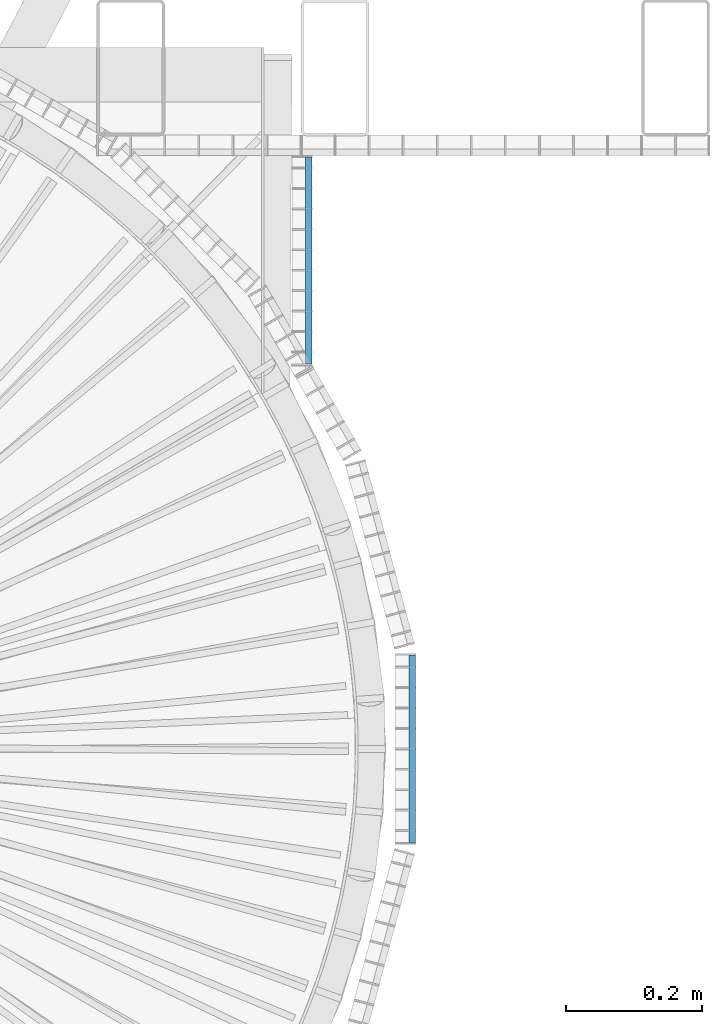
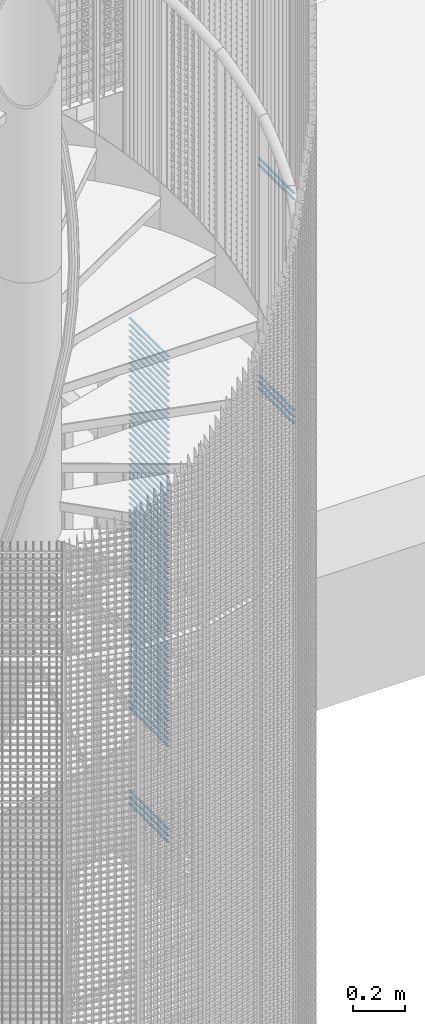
# One storey, part 291 of 1183: 70 beams, 2 elements without a shape of their own.
"""IFC2X3 building model written with IfcOpenShell, lengths in millimetres."""

import ifcopenshell
import ifcopenshell.guid

model = None  # the IFC model being written
_history = None  # IfcOwnerHistory: only IFC2X3 demands one
_inside = {}  # id of a spatial element -> (the spatial element, [elements in it])
_under = {}  # id of a project, library or spatial element -> (it, [spatial elements below it])
_declared = {}  # id of a project -> (the project, [libraries it declares])
_typed = {}  # id of a type object -> (the type object, [elements of that type])
_made_of = {}  # id of a material, layer set ... -> (it, [elements and type objects made of it])


def new_model(schema):
    """Start an empty IFC model of exactly this schema.

    Asked for "IFC4X3", IfcOpenShell would pick the latest addendum, in which some entities
    have other attributes; the version numbers below select the first issue.
    IFC2X3 requires an IfcOwnerHistory on every rooted entity: one is made here for all.
    """
    global model, _history
    if schema == "IFC4X3":
        model = ifcopenshell.file(schema_version=(4, 3, 0, 0))
    else:
        model = ifcopenshell.file(schema=schema)
    _inside.clear()
    _under.clear()
    _declared.clear()
    _typed.clear()
    _made_of.clear()
    _history = None
    if model.schema == "IFC2X3":
        org = make("IfcOrganization", Name="unknown")
        user = make(
            "IfcPersonAndOrganization",
            ThePerson=make("IfcPerson", FamilyName="unknown"),
            TheOrganization=org,
        )
        app = make(
            "IfcApplication",
            ApplicationDeveloper=org,
            Version="unknown",
            ApplicationFullName="unknown",
            ApplicationIdentifier="unknown",
        )
        _history = make(
            "IfcOwnerHistory",
            OwningUser=user,
            OwningApplication=app,
            ChangeAction="ADDED",
            CreationDate=0,
        )
    return model


def make(cls, **values):
    """One entity of the class cls with the attributes given. An attribute that is None is left unset."""
    return model.create_entity(
        cls, **{name: value for name, value in values.items() if value is not None}
    )


def rooted(cls, **values):
    """An entity with a GlobalId (a new one), such as an element, a storey or a relation."""
    return make(cls, GlobalId=ifcopenshell.guid.new(), OwnerHistory=_history, **values)


def si_unit(unit_type, name, prefix=None):
    """IfcSIUnit, for example si_unit("LENGTHUNIT", "METRE", prefix="MILLI")."""
    return make("IfcSIUnit", UnitType=unit_type, Prefix=prefix, Name=name)


def assignment(units):
    """IfcUnitAssignment: the units of a project."""
    return None if units is None else make("IfcUnitAssignment", Units=units)


def point(xyz):
    """IfcCartesianPoint."""
    return None if xyz is None else make("IfcCartesianPoint", Coordinates=xyz)


def direction(xyz):
    """IfcDirection."""
    return None if xyz is None else make("IfcDirection", DirectionRatios=xyz)


def frame(location, z_axis=None, x_axis=None):
    """IfcAxis2Placement3D, a coordinate frame: its origin and axes. An axis left out is left unset."""
    return make(
        "IfcAxis2Placement3D",
        Location=point(location),
        Axis=direction(z_axis),
        RefDirection=direction(x_axis),
    )


def frame_2d(location, x_axis=None):
    """IfcAxis2Placement2D, a coordinate frame in the plane: its origin and x axis."""
    return make(
        "IfcAxis2Placement2D", Location=point(location), RefDirection=direction(x_axis)
    )


def origin_with_axes():
    """The frame at (0, 0, 0) with the z axis (0, 0, 1) and the x axis (1, 0, 0) written out."""
    return frame((0.0, 0.0, 0.0), z_axis=(0.0, 0.0, 1.0), x_axis=(1.0, 0.0, 0.0))


def origin_2d_with_axis():
    """The frame at (0, 0) in the plane with the x axis (1, 0) written out."""
    return frame_2d((0.0, 0.0), x_axis=(1.0, 0.0))


def place(relative_to, where):
    """IfcLocalPlacement: puts the frame where relative to a parent placement (None: the world)."""
    return make(
        "IfcLocalPlacement", PlacementRelTo=relative_to, RelativePlacement=where
    )


def context(
    kind, dimensions, precision=None, world=None, true_north=None, identifier=None
):
    """IfcGeometricRepresentationContext, for example the 3D "Model" context."""
    return make(
        "IfcGeometricRepresentationContext",
        ContextIdentifier=identifier,
        ContextType=kind,
        CoordinateSpaceDimension=dimensions,
        Precision=precision,
        WorldCoordinateSystem=world,
        TrueNorth=true_north,
    )


def subcontext(parent, identifier, kind, view, scale=None):
    """IfcGeometricRepresentationSubContext, for example "Body" below "Model"."""
    return make(
        "IfcGeometricRepresentationSubContext",
        ContextIdentifier=identifier,
        ContextType=kind,
        ParentContext=parent,
        TargetScale=scale,
        TargetView=view,
    )


def project(units=None, contexts=None):
    """IfcProject with its units and contexts."""
    return rooted(
        "IfcProject",
        Name="project",
        RepresentationContexts=contexts,
        UnitsInContext=assignment(units),
    )


def spatial(cls, under=None, at=None, **own):
    """A site, building, storey or space (cls), placed at a placement, below another one or the project."""
    s = rooted(cls, ObjectPlacement=at, **own)
    if under is not None:
        _under.setdefault(under.id(), (under, []))[1].append(s)
    return s


def profile(cls, at=None, kind="AREA", **sizes):
    """A parametric profile (cls). Its sizes go by their IFC names, for example OverallWidth=200.0."""
    return make(cls, ProfileType=kind, Position=at, **sizes)


def rectangle(**sizes):
    """IfcRectangleProfileDef."""
    return profile("IfcRectangleProfileDef", **sizes)


def extrude(swept, where, along, depth):
    """IfcExtrudedAreaSolid: the profile swept, set in the frame where, extruded along a direction by depth."""
    return make(
        "IfcExtrudedAreaSolid",
        SweptArea=swept,
        Position=where,
        ExtrudedDirection=direction(along),
        Depth=depth,
    )


def shape(context_of_items, identifier, shape_type, items):
    """IfcShapeRepresentation: the items that make up one representation, for example the "Body"."""
    return make(
        "IfcShapeRepresentation",
        ContextOfItems=context_of_items,
        RepresentationIdentifier=identifier,
        RepresentationType=shape_type,
        Items=items,
    )


def material(Name=None, Category=None):
    """IfcMaterial."""
    return make("IfcMaterial", Name=Name, Category=Category)


def made_of(thing, what):
    """Note that an element or type object is made of a material, layer set ...; save() writes the relation."""
    if what is not None:
        _made_of.setdefault(what.id(), (what, []))[1].append(thing)
    return thing


def type_object(cls, material=None, **own):
    """A type object (cls), such as IfcWallType, which elements share."""
    return made_of(rooted(cls, **own), material)


def element(
    cls,
    number,
    at=None,
    inside=None,
    cuts=None,
    type_object=None,
    material=None,
    context=None,
    identifier="Body",
    shape_type=None,
    held_by="IfcProductDefinitionShape",
    body=None,
    shapes=None,
    **own,
):
    """One element of the class cls, such as IfcWall. Its Tag is "e" and its number.

    at: its placement. inside: the storey or other place that contains it. cuts: it is an
    opening in that element (IfcRelVoidsElement). A single representation is given by context,
    identifier, shape_type and body (its items); several are given by shapes. held_by: the class
    of the entity that holds the representations. save() writes the other relations.
    """
    e = rooted(cls, Tag="e%d" % number, ObjectPlacement=at, **own)
    if body is not None:
        shapes = [shape(context, identifier, shape_type, body)]
    if shapes is not None:
        e.Representation = make(held_by, Representations=shapes)
    if inside is not None:
        _inside.setdefault(inside.id(), (inside, []))[1].append(e)
    if cuts is not None:
        rooted(
            "IfcRelVoidsElement", RelatingBuildingElement=cuts, RelatedOpeningElement=e
        )
    if type_object is not None:
        _typed.setdefault(type_object.id(), (type_object, []))[1].append(e)
    return made_of(e, material)


def aggregate(whole, parts):
    """IfcRelAggregates: a whole, such as a stair, and the parts it consists of."""
    return rooted("IfcRelAggregates", RelatingObject=whole, RelatedObjects=parts)


def save(model, path):
    """Write the relations noted so far, then the file.

    IfcRelAggregates (storeys below a building ...), IfcRelContainedInSpatialStructure (elements
    in a storey), IfcRelDefinesByType, IfcRelAssociatesMaterial and IfcRelDeclares: one each for
    every whole, place, type object, material and project.
    """
    for whole, parts in _under.values():
        aggregate(whole, parts)
    for where, things in _inside.values():
        rooted(
            "IfcRelContainedInSpatialStructure",
            RelatedElements=things,
            RelatingStructure=where,
        )
    for kind, things in _typed.values():
        rooted("IfcRelDefinesByType", RelatedObjects=things, RelatingType=kind)
    for what, things in _made_of.values():
        rooted("IfcRelAssociatesMaterial", RelatedObjects=things, RelatingMaterial=what)
    for by, libraries in _declared.values():
        rooted("IfcRelDeclares", RelatingContext=by, RelatedDefinitions=libraries)
    model.write(path)


model = new_model("IFC2X3")

# Units and contexts
model_context = context("Model", 3, precision=1e-05, world=origin_with_axes())
body_context = subcontext(model_context, "Body", "Model", "MODEL_VIEW")
ifc_project = project(units=[si_unit("LENGTHUNIT", "METRE", prefix="MILLI"), si_unit("AREAUNIT", "SQUARE_METRE"), si_unit("VOLUMEUNIT", "CUBIC_METRE"), si_unit("MASSUNIT", "GRAM", prefix="KILO"), si_unit("TIMEUNIT", "SECOND"), si_unit("PLANEANGLEUNIT", "RADIAN"), si_unit("SOLIDANGLEUNIT", "STERADIAN"), si_unit("THERMODYNAMICTEMPERATUREUNIT", "DEGREE_CELSIUS"), si_unit("LUMINOUSINTENSITYUNIT", "LUMEN")], contexts=[model_context])

# Site, building, storey
site_placement = place(None, origin_with_axes())
site = spatial("IfcSite", under=ifc_project, at=site_placement, Name="Undefined", CompositionType="ELEMENT")
building_placement = place(site_placement, origin_with_axes())
building = spatial("IfcBuilding", under=site, at=building_placement, Name="Undefined", CompositionType="ELEMENT")
storey_placement = place(building_placement, origin_with_axes())
storey = spatial("IfcBuildingStorey", under=building, at=storey_placement, Name="Undefined", CompositionType="ELEMENT", Elevation=0.0)

# Assembly, beams
assembly_1_placement = place(storey_placement, origin_with_axes())
assembly_1 = element("IfcElementAssembly", 1, at=assembly_1_placement, inside=storey, Name="BORDURE", AssemblyPlace="NOTDEFINED", PredefinedType="NOTDEFINED")
ifc_material = material(Name="STEEL/S235JR")
beam_type = type_object("IfcBeamType", Name="PL2*10", PredefinedType="NOTDEFINED")
beam_1_placement = place(assembly_1_placement, frame((1113.47999999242, -137.996003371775, 10080.0), z_axis=(1.0, 0.0, 0.0), x_axis=(0.0, 1.0, 0.0)))
beam_1 = element("IfcBeam", 2, at=beam_1_placement, type_object=beam_type, material=ifc_material, Name="ENTRETOISE", context=body_context, shape_type="SweptSolid", body=[
    extrude(rectangle(XDim=2.0, YDim=10.0, at=origin_2d_with_axis()), frame((275.999999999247, 9.09494701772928e-13, 1.53210777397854e-14), z_axis=(-1.0, 0.0, 0.0), x_axis=(0.0, -1.0, 0.0)), (0.0, 0.0, 1.0), 276.0),
])
beam_2_placement = place(assembly_1_placement, frame((1113.47999999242, -137.996003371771, 9090.0), z_axis=(1.0, 0.0, 0.0), x_axis=(0.0, 1.0, 0.0)))
beam_2 = element("IfcBeam", 3, at=beam_2_placement, type_object=beam_type, material=ifc_material, Name="ENTRETOISE", context=body_context, shape_type="SweptSolid", body=[
    extrude(rectangle(XDim=2.0, YDim=10.0, at=origin_2d_with_axis()), frame((275.999999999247, 9.09494701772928e-13, 1.53210777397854e-14), z_axis=(-1.0, 0.0, 0.0), x_axis=(0.0, -1.0, 0.0)), (0.0, 0.0, 1.0), 276.0),
])
beam_3_placement = place(assembly_1_placement, frame((1113.47999999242, -137.996003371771, 9060.0), z_axis=(1.0, 0.0, 0.0), x_axis=(0.0, 1.0, 0.0)))
beam_3 = element("IfcBeam", 4, at=beam_3_placement, type_object=beam_type, material=ifc_material, Name="ENTRETOISE", context=body_context, shape_type="SweptSolid", body=[
    extrude(rectangle(XDim=2.0, YDim=10.0, at=origin_2d_with_axis()), frame((275.999999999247, 9.09494701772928e-13, 1.53210777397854e-14), z_axis=(-1.0, 0.0, 0.0), x_axis=(0.0, -1.0, 0.0)), (0.0, 0.0, 1.0), 276.0),
])
beam_4_placement = place(assembly_1_placement, frame((1113.47999999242, -137.996003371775, 10110.0), z_axis=(1.0, 0.0, 0.0), x_axis=(0.0, 1.0, 0.0)))
beam_4 = element("IfcBeam", 5, at=beam_4_placement, type_object=beam_type, material=ifc_material, Name="ENTRETOISE", context=body_context, shape_type="SweptSolid", body=[
    extrude(rectangle(XDim=2.0, YDim=10.0, at=origin_2d_with_axis()), frame((275.999999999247, 9.09494701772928e-13, 1.53210777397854e-14), z_axis=(-1.0, 0.0, 0.0), x_axis=(0.0, -1.0, 0.0)), (0.0, 0.0, 1.0), 276.0),
])
beam_5_placement = place(assembly_1_placement, frame((1113.47999999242, -137.99600337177, 9030.0), z_axis=(1.0, 0.0, 0.0), x_axis=(0.0, 1.0, 0.0)))
beam_5 = element("IfcBeam", 6, at=beam_5_placement, type_object=beam_type, material=ifc_material, Name="ENTRETOISE", context=body_context, shape_type="SweptSolid", body=[
    extrude(rectangle(XDim=2.0, YDim=10.0, at=origin_2d_with_axis()), frame((275.999999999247, 9.09494701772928e-13, 1.53210777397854e-14), z_axis=(-1.0, 0.0, 0.0), x_axis=(0.0, -1.0, 0.0)), (0.0, 0.0, 1.0), 276.0),
])
aggregate(assembly_1, [beam_1, beam_2, beam_3, beam_4, beam_5])

assembly_2_placement = place(storey_placement, origin_with_axes())
assembly_2 = element("IfcElementAssembly", 7, at=assembly_2_placement, inside=storey, Name="BORDURE", AssemblyPlace="NOTDEFINED", PredefinedType="NOTDEFINED")
beam_6_placement = place(assembly_2_placement, frame((961.586915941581, 564.78266928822, 8970.0), z_axis=(1.0, 0.0, 0.0), x_axis=(0.0, 1.0, 0.0)))
beam_6 = element("IfcBeam", 8, at=beam_6_placement, type_object=beam_type, material=ifc_material, Name="ENTRETOISE", context=body_context, shape_type="SweptSolid", body=[
    extrude(rectangle(XDim=2.0, YDim=10.0, at=origin_2d_with_axis()), frame((303.999999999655, 0.0, 0.0), z_axis=(-1.0, 0.0, 0.0), x_axis=(0.0, -1.0, 0.0)), (0.0, 0.0, 1.0), 304.0),
])
beam_7_placement = place(assembly_2_placement, frame((961.586915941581, 564.78266928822, 8940.0), z_axis=(1.0, 0.0, 0.0), x_axis=(0.0, 1.0, 0.0)))
beam_7 = element("IfcBeam", 9, at=beam_7_placement, type_object=beam_type, material=ifc_material, Name="ENTRETOISE", context=body_context, shape_type="SweptSolid", body=[
    extrude(rectangle(XDim=2.0, YDim=10.0, at=origin_2d_with_axis()), frame((303.999999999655, 0.0, 0.0), z_axis=(-1.0, 0.0, 0.0), x_axis=(0.0, -1.0, 0.0)), (0.0, 0.0, 1.0), 304.0),
])
beam_8_placement = place(assembly_2_placement, frame((961.586915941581, 564.78266928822, 8910.0), z_axis=(1.0, 0.0, 0.0), x_axis=(0.0, 1.0, 0.0)))
beam_8 = element("IfcBeam", 10, at=beam_8_placement, type_object=beam_type, material=ifc_material, Name="ENTRETOISE", context=body_context, shape_type="SweptSolid", body=[
    extrude(rectangle(XDim=2.0, YDim=10.0, at=origin_2d_with_axis()), frame((303.999999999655, 0.0, 0.0), z_axis=(-1.0, 0.0, 0.0), x_axis=(0.0, -1.0, 0.0)), (0.0, 0.0, 1.0), 304.0),
])
beam_9_placement = place(assembly_2_placement, frame((961.586915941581, 564.782669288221, 8880.0), z_axis=(1.0, 0.0, 0.0), x_axis=(0.0, 1.0, 0.0)))
beam_9 = element("IfcBeam", 11, at=beam_9_placement, type_object=beam_type, material=ifc_material, Name="ENTRETOISE", context=body_context, shape_type="SweptSolid", body=[
    extrude(rectangle(XDim=2.0, YDim=10.0, at=origin_2d_with_axis()), frame((303.999999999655, 0.0, 0.0), z_axis=(-1.0, 0.0, 0.0), x_axis=(0.0, -1.0, 0.0)), (0.0, 0.0, 1.0), 304.0),
])
beam_10_placement = place(assembly_2_placement, frame((961.586915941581, 564.78266928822, 8850.0), z_axis=(1.0, 0.0, 0.0), x_axis=(0.0, 1.0, 0.0)))
beam_10 = element("IfcBeam", 12, at=beam_10_placement, type_object=beam_type, material=ifc_material, Name="ENTRETOISE", context=body_context, shape_type="SweptSolid", body=[
    extrude(rectangle(XDim=2.0, YDim=10.0, at=origin_2d_with_axis()), frame((303.999999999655, 0.0, 0.0), z_axis=(-1.0, 0.0, 0.0), x_axis=(0.0, -1.0, 0.0)), (0.0, 0.0, 1.0), 304.0),
])
beam_11_placement = place(assembly_2_placement, frame((961.586915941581, 564.78266928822, 8820.0), z_axis=(1.0, 0.0, 0.0), x_axis=(0.0, 1.0, 0.0)))
beam_11 = element("IfcBeam", 13, at=beam_11_placement, type_object=beam_type, material=ifc_material, Name="ENTRETOISE", context=body_context, shape_type="SweptSolid", body=[
    extrude(rectangle(XDim=2.0, YDim=10.0, at=origin_2d_with_axis()), frame((303.999999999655, 0.0, 0.0), z_axis=(-1.0, 0.0, 0.0), x_axis=(0.0, -1.0, 0.0)), (0.0, 0.0, 1.0), 304.0),
])
beam_12_placement = place(assembly_2_placement, frame((961.586915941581, 564.782669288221, 8790.0), z_axis=(1.0, 0.0, 0.0), x_axis=(0.0, 1.0, 0.0)))
beam_12 = element("IfcBeam", 14, at=beam_12_placement, type_object=beam_type, material=ifc_material, Name="ENTRETOISE", context=body_context, shape_type="SweptSolid", body=[
    extrude(rectangle(XDim=2.0, YDim=10.0, at=origin_2d_with_axis()), frame((303.999999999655, 0.0, 0.0), z_axis=(-1.0, 0.0, 0.0), x_axis=(0.0, -1.0, 0.0)), (0.0, 0.0, 1.0), 304.0),
])
beam_13_placement = place(assembly_2_placement, frame((961.586915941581, 564.782669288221, 8760.0), z_axis=(1.0, 0.0, 0.0), x_axis=(0.0, 1.0, 0.0)))
beam_13 = element("IfcBeam", 15, at=beam_13_placement, type_object=beam_type, material=ifc_material, Name="ENTRETOISE", context=body_context, shape_type="SweptSolid", body=[
    extrude(rectangle(XDim=2.0, YDim=10.0, at=origin_2d_with_axis()), frame((303.999999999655, 0.0, 0.0), z_axis=(-1.0, 0.0, 0.0), x_axis=(0.0, -1.0, 0.0)), (0.0, 0.0, 1.0), 304.0),
])
beam_14_placement = place(assembly_2_placement, frame((961.586915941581, 564.782669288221, 8730.0), z_axis=(1.0, 0.0, 0.0), x_axis=(0.0, 1.0, 0.0)))
beam_14 = element("IfcBeam", 16, at=beam_14_placement, type_object=beam_type, material=ifc_material, Name="ENTRETOISE", context=body_context, shape_type="SweptSolid", body=[
    extrude(rectangle(XDim=2.0, YDim=10.0, at=origin_2d_with_axis()), frame((303.999999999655, 0.0, 0.0), z_axis=(-1.0, 0.0, 0.0), x_axis=(0.0, -1.0, 0.0)), (0.0, 0.0, 1.0), 304.0),
])
beam_15_placement = place(assembly_2_placement, frame((961.586915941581, 564.782669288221, 8700.0), z_axis=(1.0, 0.0, 0.0), x_axis=(0.0, 1.0, 0.0)))
beam_15 = element("IfcBeam", 17, at=beam_15_placement, type_object=beam_type, material=ifc_material, Name="ENTRETOISE", context=body_context, shape_type="SweptSolid", body=[
    extrude(rectangle(XDim=2.0, YDim=10.0, at=origin_2d_with_axis()), frame((303.999999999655, 0.0, 0.0), z_axis=(-1.0, 0.0, 0.0), x_axis=(0.0, -1.0, 0.0)), (0.0, 0.0, 1.0), 304.0),
])
beam_16_placement = place(assembly_2_placement, frame((961.586915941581, 564.782669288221, 8670.0), z_axis=(1.0, 0.0, 0.0), x_axis=(0.0, 1.0, 0.0)))
beam_16 = element("IfcBeam", 18, at=beam_16_placement, type_object=beam_type, material=ifc_material, Name="ENTRETOISE", context=body_context, shape_type="SweptSolid", body=[
    extrude(rectangle(XDim=2.0, YDim=10.0, at=origin_2d_with_axis()), frame((303.999999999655, 0.0, 0.0), z_axis=(-1.0, 0.0, 0.0), x_axis=(0.0, -1.0, 0.0)), (0.0, 0.0, 1.0), 304.0),
])
beam_17_placement = place(assembly_2_placement, frame((961.586915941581, 564.782669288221, 8640.0), z_axis=(1.0, 0.0, 0.0), x_axis=(0.0, 1.0, 0.0)))
beam_17 = element("IfcBeam", 19, at=beam_17_placement, type_object=beam_type, material=ifc_material, Name="ENTRETOISE", context=body_context, shape_type="SweptSolid", body=[
    extrude(rectangle(XDim=2.0, YDim=10.0, at=origin_2d_with_axis()), frame((303.999999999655, 0.0, 0.0), z_axis=(-1.0, 0.0, 0.0), x_axis=(0.0, -1.0, 0.0)), (0.0, 0.0, 1.0), 304.0),
])
beam_18_placement = place(assembly_2_placement, frame((961.586915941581, 564.782669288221, 8610.0), z_axis=(1.0, 0.0, 0.0), x_axis=(0.0, 1.0, 0.0)))
beam_18 = element("IfcBeam", 20, at=beam_18_placement, type_object=beam_type, material=ifc_material, Name="ENTRETOISE", context=body_context, shape_type="SweptSolid", body=[
    extrude(rectangle(XDim=2.0, YDim=10.0, at=origin_2d_with_axis()), frame((303.999999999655, 0.0, 0.0), z_axis=(-1.0, 0.0, 0.0), x_axis=(0.0, -1.0, 0.0)), (0.0, 0.0, 1.0), 304.0),
])
beam_19_placement = place(assembly_2_placement, frame((961.586915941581, 564.782669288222, 8580.0), z_axis=(1.0, 0.0, 0.0), x_axis=(0.0, 1.0, 0.0)))
beam_19 = element("IfcBeam", 21, at=beam_19_placement, type_object=beam_type, material=ifc_material, Name="ENTRETOISE", context=body_context, shape_type="SweptSolid", body=[
    extrude(rectangle(XDim=2.0, YDim=10.0, at=origin_2d_with_axis()), frame((303.999999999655, 0.0, 0.0), z_axis=(-1.0, 0.0, 0.0), x_axis=(0.0, -1.0, 0.0)), (0.0, 0.0, 1.0), 304.0),
])
beam_20_placement = place(assembly_2_placement, frame((961.586915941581, 564.782669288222, 8550.0), z_axis=(1.0, 0.0, 0.0), x_axis=(0.0, 1.0, 0.0)))
beam_20 = element("IfcBeam", 22, at=beam_20_placement, type_object=beam_type, material=ifc_material, Name="ENTRETOISE", context=body_context, shape_type="SweptSolid", body=[
    extrude(rectangle(XDim=2.0, YDim=10.0, at=origin_2d_with_axis()), frame((303.999999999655, 0.0, 0.0), z_axis=(-1.0, 0.0, 0.0), x_axis=(0.0, -1.0, 0.0)), (0.0, 0.0, 1.0), 304.0),
])
beam_21_placement = place(assembly_2_placement, frame((961.586915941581, 564.782669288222, 8520.0), z_axis=(1.0, 0.0, 0.0), x_axis=(0.0, 1.0, 0.0)))
beam_21 = element("IfcBeam", 23, at=beam_21_placement, type_object=beam_type, material=ifc_material, Name="ENTRETOISE", context=body_context, shape_type="SweptSolid", body=[
    extrude(rectangle(XDim=2.0, YDim=10.0, at=origin_2d_with_axis()), frame((303.999999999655, 0.0, 0.0), z_axis=(-1.0, 0.0, 0.0), x_axis=(0.0, -1.0, 0.0)), (0.0, 0.0, 1.0), 304.0),
])
beam_22_placement = place(assembly_2_placement, frame((961.586915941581, 564.782669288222, 8490.0), z_axis=(1.0, 0.0, 0.0), x_axis=(0.0, 1.0, 0.0)))
beam_22 = element("IfcBeam", 24, at=beam_22_placement, type_object=beam_type, material=ifc_material, Name="ENTRETOISE", context=body_context, shape_type="SweptSolid", body=[
    extrude(rectangle(XDim=2.0, YDim=10.0, at=origin_2d_with_axis()), frame((303.999999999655, 0.0, 0.0), z_axis=(-1.0, 0.0, 0.0), x_axis=(0.0, -1.0, 0.0)), (0.0, 0.0, 1.0), 304.0),
])
beam_23_placement = place(assembly_2_placement, frame((961.586915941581, 564.782669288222, 8460.0), z_axis=(1.0, 0.0, 0.0), x_axis=(0.0, 1.0, 0.0)))
beam_23 = element("IfcBeam", 25, at=beam_23_placement, type_object=beam_type, material=ifc_material, Name="ENTRETOISE", context=body_context, shape_type="SweptSolid", body=[
    extrude(rectangle(XDim=2.0, YDim=10.0, at=origin_2d_with_axis()), frame((303.999999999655, 0.0, 0.0), z_axis=(-1.0, 0.0, 0.0), x_axis=(0.0, -1.0, 0.0)), (0.0, 0.0, 1.0), 304.0),
])
beam_24_placement = place(assembly_2_placement, frame((961.586915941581, 564.782669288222, 8430.0), z_axis=(1.0, 0.0, 0.0), x_axis=(0.0, 1.0, 0.0)))
beam_24 = element("IfcBeam", 26, at=beam_24_placement, type_object=beam_type, material=ifc_material, Name="ENTRETOISE", context=body_context, shape_type="SweptSolid", body=[
    extrude(rectangle(XDim=2.0, YDim=10.0, at=origin_2d_with_axis()), frame((303.999999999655, 0.0, 0.0), z_axis=(-1.0, 0.0, 0.0), x_axis=(0.0, -1.0, 0.0)), (0.0, 0.0, 1.0), 304.0),
])
beam_25_placement = place(assembly_2_placement, frame((961.586915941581, 564.782669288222, 8400.0), z_axis=(1.0, 0.0, 0.0), x_axis=(0.0, 1.0, 0.0)))
beam_25 = element("IfcBeam", 27, at=beam_25_placement, type_object=beam_type, material=ifc_material, Name="ENTRETOISE", context=body_context, shape_type="SweptSolid", body=[
    extrude(rectangle(XDim=2.0, YDim=10.0, at=origin_2d_with_axis()), frame((303.999999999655, 0.0, 0.0), z_axis=(-1.0, 0.0, 0.0), x_axis=(0.0, -1.0, 0.0)), (0.0, 0.0, 1.0), 304.0),
])
beam_26_placement = place(assembly_2_placement, frame((961.586915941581, 564.782669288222, 8370.0), z_axis=(1.0, 0.0, 0.0), x_axis=(0.0, 1.0, 0.0)))
beam_26 = element("IfcBeam", 28, at=beam_26_placement, type_object=beam_type, material=ifc_material, Name="ENTRETOISE", context=body_context, shape_type="SweptSolid", body=[
    extrude(rectangle(XDim=2.0, YDim=10.0, at=origin_2d_with_axis()), frame((303.999999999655, 0.0, 0.0), z_axis=(-1.0, 0.0, 0.0), x_axis=(0.0, -1.0, 0.0)), (0.0, 0.0, 1.0), 304.0),
])
beam_27_placement = place(assembly_2_placement, frame((961.586915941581, 564.782669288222, 8340.0), z_axis=(1.0, 0.0, 0.0), x_axis=(0.0, 1.0, 0.0)))
beam_27 = element("IfcBeam", 29, at=beam_27_placement, type_object=beam_type, material=ifc_material, Name="ENTRETOISE", context=body_context, shape_type="SweptSolid", body=[
    extrude(rectangle(XDim=2.0, YDim=10.0, at=origin_2d_with_axis()), frame((303.999999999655, 0.0, 0.0), z_axis=(-1.0, 0.0, 0.0), x_axis=(0.0, -1.0, 0.0)), (0.0, 0.0, 1.0), 304.0),
])
beam_28_placement = place(assembly_2_placement, frame((961.586915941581, 564.782669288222, 8310.0), z_axis=(1.0, 0.0, 0.0), x_axis=(0.0, 1.0, 0.0)))
beam_28 = element("IfcBeam", 30, at=beam_28_placement, type_object=beam_type, material=ifc_material, Name="ENTRETOISE", context=body_context, shape_type="SweptSolid", body=[
    extrude(rectangle(XDim=2.0, YDim=10.0, at=origin_2d_with_axis()), frame((303.999999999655, 0.0, 0.0), z_axis=(-1.0, 0.0, 0.0), x_axis=(0.0, -1.0, 0.0)), (0.0, 0.0, 1.0), 304.0),
])
beam_29_placement = place(assembly_2_placement, frame((961.586915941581, 564.782669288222, 8280.0), z_axis=(1.0, 0.0, 0.0), x_axis=(0.0, 1.0, 0.0)))
beam_29 = element("IfcBeam", 31, at=beam_29_placement, type_object=beam_type, material=ifc_material, Name="ENTRETOISE", context=body_context, shape_type="SweptSolid", body=[
    extrude(rectangle(XDim=2.0, YDim=10.0, at=origin_2d_with_axis()), frame((303.999999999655, 0.0, 0.0), z_axis=(-1.0, 0.0, 0.0), x_axis=(0.0, -1.0, 0.0)), (0.0, 0.0, 1.0), 304.0),
])
beam_30_placement = place(assembly_2_placement, frame((961.586915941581, 564.782669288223, 8250.0), z_axis=(1.0, 0.0, 0.0), x_axis=(0.0, 1.0, 0.0)))
beam_30 = element("IfcBeam", 32, at=beam_30_placement, type_object=beam_type, material=ifc_material, Name="ENTRETOISE", context=body_context, shape_type="SweptSolid", body=[
    extrude(rectangle(XDim=2.0, YDim=10.0, at=origin_2d_with_axis()), frame((303.999999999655, 0.0, 0.0), z_axis=(-1.0, 0.0, 0.0), x_axis=(0.0, -1.0, 0.0)), (0.0, 0.0, 1.0), 304.0),
])
beam_31_placement = place(assembly_2_placement, frame((961.586915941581, 564.782669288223, 8220.0), z_axis=(1.0, 0.0, 0.0), x_axis=(0.0, 1.0, 0.0)))
beam_31 = element("IfcBeam", 33, at=beam_31_placement, type_object=beam_type, material=ifc_material, Name="ENTRETOISE", context=body_context, shape_type="SweptSolid", body=[
    extrude(rectangle(XDim=2.0, YDim=10.0, at=origin_2d_with_axis()), frame((303.999999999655, 0.0, 0.0), z_axis=(-1.0, 0.0, 0.0), x_axis=(0.0, -1.0, 0.0)), (0.0, 0.0, 1.0), 304.0),
])
beam_32_placement = place(assembly_2_placement, frame((961.586915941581, 564.782669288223, 8190.0), z_axis=(1.0, 0.0, 0.0), x_axis=(0.0, 1.0, 0.0)))
beam_32 = element("IfcBeam", 34, at=beam_32_placement, type_object=beam_type, material=ifc_material, Name="ENTRETOISE", context=body_context, shape_type="SweptSolid", body=[
    extrude(rectangle(XDim=2.0, YDim=10.0, at=origin_2d_with_axis()), frame((303.999999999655, 0.0, 0.0), z_axis=(-1.0, 0.0, 0.0), x_axis=(0.0, -1.0, 0.0)), (0.0, 0.0, 1.0), 304.0),
])
beam_33_placement = place(assembly_2_placement, frame((961.586915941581, 564.782669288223, 8160.0), z_axis=(1.0, 0.0, 0.0), x_axis=(0.0, 1.0, 0.0)))
beam_33 = element("IfcBeam", 35, at=beam_33_placement, type_object=beam_type, material=ifc_material, Name="ENTRETOISE", context=body_context, shape_type="SweptSolid", body=[
    extrude(rectangle(XDim=2.0, YDim=10.0, at=origin_2d_with_axis()), frame((303.999999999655, 0.0, 0.0), z_axis=(-1.0, 0.0, 0.0), x_axis=(0.0, -1.0, 0.0)), (0.0, 0.0, 1.0), 304.0),
])
beam_34_placement = place(assembly_2_placement, frame((961.586915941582, 564.782669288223, 8130.0), z_axis=(1.0, 0.0, 0.0), x_axis=(0.0, 1.0, 0.0)))
beam_34 = element("IfcBeam", 36, at=beam_34_placement, type_object=beam_type, material=ifc_material, Name="ENTRETOISE", context=body_context, shape_type="SweptSolid", body=[
    extrude(rectangle(XDim=2.0, YDim=10.0, at=origin_2d_with_axis()), frame((303.999999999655, 0.0, 0.0), z_axis=(-1.0, 0.0, 0.0), x_axis=(0.0, -1.0, 0.0)), (0.0, 0.0, 1.0), 304.0),
])
beam_35_placement = place(assembly_2_placement, frame((961.586915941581, 564.782669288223, 8100.0), z_axis=(1.0, 0.0, 0.0), x_axis=(0.0, 1.0, 0.0)))
beam_35 = element("IfcBeam", 37, at=beam_35_placement, type_object=beam_type, material=ifc_material, Name="ENTRETOISE", context=body_context, shape_type="SweptSolid", body=[
    extrude(rectangle(XDim=2.0, YDim=10.0, at=origin_2d_with_axis()), frame((303.999999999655, 0.0, 0.0), z_axis=(-1.0, 0.0, 0.0), x_axis=(0.0, -1.0, 0.0)), (0.0, 0.0, 1.0), 304.0),
])
beam_36_placement = place(assembly_2_placement, frame((961.586915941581, 564.782669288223, 8070.0), z_axis=(1.0, 0.0, 0.0), x_axis=(0.0, 1.0, 0.0)))
beam_36 = element("IfcBeam", 38, at=beam_36_placement, type_object=beam_type, material=ifc_material, Name="ENTRETOISE", context=body_context, shape_type="SweptSolid", body=[
    extrude(rectangle(XDim=2.0, YDim=10.0, at=origin_2d_with_axis()), frame((303.999999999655, 0.0, 0.0), z_axis=(-1.0, 0.0, 0.0), x_axis=(0.0, -1.0, 0.0)), (0.0, 0.0, 1.0), 304.0),
])
beam_37_placement = place(assembly_2_placement, frame((961.586915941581, 564.782669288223, 8040.0), z_axis=(1.0, 0.0, 0.0), x_axis=(0.0, 1.0, 0.0)))
beam_37 = element("IfcBeam", 39, at=beam_37_placement, type_object=beam_type, material=ifc_material, Name="ENTRETOISE", context=body_context, shape_type="SweptSolid", body=[
    extrude(rectangle(XDim=2.0, YDim=10.0, at=origin_2d_with_axis()), frame((303.999999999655, 0.0, 0.0), z_axis=(-1.0, 0.0, 0.0), x_axis=(0.0, -1.0, 0.0)), (0.0, 0.0, 1.0), 304.0),
])
beam_38_placement = place(assembly_2_placement, frame((961.586915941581, 564.782669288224, 8010.0), z_axis=(1.0, 0.0, 0.0), x_axis=(0.0, 1.0, 0.0)))
beam_38 = element("IfcBeam", 40, at=beam_38_placement, type_object=beam_type, material=ifc_material, Name="ENTRETOISE", context=body_context, shape_type="SweptSolid", body=[
    extrude(rectangle(XDim=2.0, YDim=10.0, at=origin_2d_with_axis()), frame((303.999999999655, 0.0, 0.0), z_axis=(-1.0, 0.0, 0.0), x_axis=(0.0, -1.0, 0.0)), (0.0, 0.0, 1.0), 304.0),
])
beam_39_placement = place(assembly_2_placement, frame((961.586915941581, 564.782669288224, 7980.0), z_axis=(1.0, 0.0, 0.0), x_axis=(0.0, 1.0, 0.0)))
beam_39 = element("IfcBeam", 41, at=beam_39_placement, type_object=beam_type, material=ifc_material, Name="ENTRETOISE", context=body_context, shape_type="SweptSolid", body=[
    extrude(rectangle(XDim=2.0, YDim=10.0, at=origin_2d_with_axis()), frame((303.999999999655, 0.0, 0.0), z_axis=(-1.0, 0.0, 0.0), x_axis=(0.0, -1.0, 0.0)), (0.0, 0.0, 1.0), 304.0),
])
beam_40_placement = place(assembly_2_placement, frame((961.586915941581, 564.782669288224, 7950.0), z_axis=(1.0, 0.0, 0.0), x_axis=(0.0, 1.0, 0.0)))
beam_40 = element("IfcBeam", 42, at=beam_40_placement, type_object=beam_type, material=ifc_material, Name="ENTRETOISE", context=body_context, shape_type="SweptSolid", body=[
    extrude(rectangle(XDim=2.0, YDim=10.0, at=origin_2d_with_axis()), frame((303.999999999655, 0.0, 0.0), z_axis=(-1.0, 0.0, 0.0), x_axis=(0.0, -1.0, 0.0)), (0.0, 0.0, 1.0), 304.0),
])
beam_41_placement = place(assembly_2_placement, frame((961.586915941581, 564.782669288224, 7920.0), z_axis=(1.0, 0.0, 0.0), x_axis=(0.0, 1.0, 0.0)))
beam_41 = element("IfcBeam", 43, at=beam_41_placement, type_object=beam_type, material=ifc_material, Name="ENTRETOISE", context=body_context, shape_type="SweptSolid", body=[
    extrude(rectangle(XDim=2.0, YDim=10.0, at=origin_2d_with_axis()), frame((303.999999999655, 0.0, 0.0), z_axis=(-1.0, 0.0, 0.0), x_axis=(0.0, -1.0, 0.0)), (0.0, 0.0, 1.0), 304.0),
])
beam_42_placement = place(assembly_2_placement, frame((961.586915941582, 564.782669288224, 7890.0), z_axis=(1.0, 0.0, 0.0), x_axis=(0.0, 1.0, 0.0)))
beam_42 = element("IfcBeam", 44, at=beam_42_placement, type_object=beam_type, material=ifc_material, Name="ENTRETOISE", context=body_context, shape_type="SweptSolid", body=[
    extrude(rectangle(XDim=2.0, YDim=10.0, at=origin_2d_with_axis()), frame((303.999999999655, 0.0, 0.0), z_axis=(-1.0, 0.0, 0.0), x_axis=(0.0, -1.0, 0.0)), (0.0, 0.0, 1.0), 304.0),
])
beam_43_placement = place(assembly_2_placement, frame((961.586915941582, 564.782669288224, 7860.0), z_axis=(1.0, 0.0, 0.0), x_axis=(0.0, 1.0, 0.0)))
beam_43 = element("IfcBeam", 45, at=beam_43_placement, type_object=beam_type, material=ifc_material, Name="ENTRETOISE", context=body_context, shape_type="SweptSolid", body=[
    extrude(rectangle(XDim=2.0, YDim=10.0, at=origin_2d_with_axis()), frame((303.999999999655, 0.0, 0.0), z_axis=(-1.0, 0.0, 0.0), x_axis=(0.0, -1.0, 0.0)), (0.0, 0.0, 1.0), 304.0),
])
beam_44_placement = place(assembly_2_placement, frame((961.586915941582, 564.782669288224, 7830.0), z_axis=(1.0, 0.0, 0.0), x_axis=(0.0, 1.0, 0.0)))
beam_44 = element("IfcBeam", 46, at=beam_44_placement, type_object=beam_type, material=ifc_material, Name="ENTRETOISE", context=body_context, shape_type="SweptSolid", body=[
    extrude(rectangle(XDim=2.0, YDim=10.0, at=origin_2d_with_axis()), frame((303.999999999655, 0.0, 0.0), z_axis=(-1.0, 0.0, 0.0), x_axis=(0.0, -1.0, 0.0)), (0.0, 0.0, 1.0), 304.0),
])
beam_45_placement = place(assembly_2_placement, frame((961.586915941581, 564.782669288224, 7800.0), z_axis=(1.0, 0.0, 0.0), x_axis=(0.0, 1.0, 0.0)))
beam_45 = element("IfcBeam", 47, at=beam_45_placement, type_object=beam_type, material=ifc_material, Name="ENTRETOISE", context=body_context, shape_type="SweptSolid", body=[
    extrude(rectangle(XDim=2.0, YDim=10.0, at=origin_2d_with_axis()), frame((303.999999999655, 0.0, 0.0), z_axis=(-1.0, 0.0, 0.0), x_axis=(0.0, -1.0, 0.0)), (0.0, 0.0, 1.0), 304.0),
])
beam_46_placement = place(assembly_2_placement, frame((961.586915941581, 564.782669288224, 7770.0), z_axis=(1.0, 0.0, 0.0), x_axis=(0.0, 1.0, 0.0)))
beam_46 = element("IfcBeam", 48, at=beam_46_placement, type_object=beam_type, material=ifc_material, Name="ENTRETOISE", context=body_context, shape_type="SweptSolid", body=[
    extrude(rectangle(XDim=2.0, YDim=10.0, at=origin_2d_with_axis()), frame((303.999999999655, 0.0, 0.0), z_axis=(-1.0, 0.0, 0.0), x_axis=(0.0, -1.0, 0.0)), (0.0, 0.0, 1.0), 304.0),
])
beam_47_placement = place(assembly_2_placement, frame((961.586915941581, 564.782669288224, 7740.0), z_axis=(1.0, 0.0, 0.0), x_axis=(0.0, 1.0, 0.0)))
beam_47 = element("IfcBeam", 49, at=beam_47_placement, type_object=beam_type, material=ifc_material, Name="ENTRETOISE", context=body_context, shape_type="SweptSolid", body=[
    extrude(rectangle(XDim=2.0, YDim=10.0, at=origin_2d_with_axis()), frame((303.999999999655, 0.0, 0.0), z_axis=(-1.0, 0.0, 0.0), x_axis=(0.0, -1.0, 0.0)), (0.0, 0.0, 1.0), 304.0),
])
beam_48_placement = place(assembly_2_placement, frame((961.586915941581, 564.782669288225, 7710.0), z_axis=(1.0, 0.0, 0.0), x_axis=(0.0, 1.0, 0.0)))
beam_48 = element("IfcBeam", 50, at=beam_48_placement, type_object=beam_type, material=ifc_material, Name="ENTRETOISE", context=body_context, shape_type="SweptSolid", body=[
    extrude(rectangle(XDim=2.0, YDim=10.0, at=origin_2d_with_axis()), frame((303.999999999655, 0.0, 0.0), z_axis=(-1.0, 0.0, 0.0), x_axis=(0.0, -1.0, 0.0)), (0.0, 0.0, 1.0), 304.0),
])
beam_49_placement = place(assembly_2_placement, frame((961.586915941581, 564.782669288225, 7680.0), z_axis=(1.0, 0.0, 0.0), x_axis=(0.0, 1.0, 0.0)))
beam_49 = element("IfcBeam", 51, at=beam_49_placement, type_object=beam_type, material=ifc_material, Name="ENTRETOISE", context=body_context, shape_type="SweptSolid", body=[
    extrude(rectangle(XDim=2.0, YDim=10.0, at=origin_2d_with_axis()), frame((303.999999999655, 0.0, 0.0), z_axis=(-1.0, 0.0, 0.0), x_axis=(0.0, -1.0, 0.0)), (0.0, 0.0, 1.0), 304.0),
])
beam_50_placement = place(assembly_2_placement, frame((961.586915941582, 564.782669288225, 7650.0), z_axis=(1.0, 0.0, 0.0), x_axis=(0.0, 1.0, 0.0)))
beam_50 = element("IfcBeam", 52, at=beam_50_placement, type_object=beam_type, material=ifc_material, Name="ENTRETOISE", context=body_context, shape_type="SweptSolid", body=[
    extrude(rectangle(XDim=2.0, YDim=10.0, at=origin_2d_with_axis()), frame((303.999999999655, 0.0, 0.0), z_axis=(-1.0, 0.0, 0.0), x_axis=(0.0, -1.0, 0.0)), (0.0, 0.0, 1.0), 304.0),
])
beam_51_placement = place(assembly_2_placement, frame((961.586915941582, 564.782669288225, 7620.0), z_axis=(1.0, 0.0, 0.0), x_axis=(0.0, 1.0, 0.0)))
beam_51 = element("IfcBeam", 53, at=beam_51_placement, type_object=beam_type, material=ifc_material, Name="ENTRETOISE", context=body_context, shape_type="SweptSolid", body=[
    extrude(rectangle(XDim=2.0, YDim=10.0, at=origin_2d_with_axis()), frame((303.999999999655, 0.0, 0.0), z_axis=(-1.0, 0.0, 0.0), x_axis=(0.0, -1.0, 0.0)), (0.0, 0.0, 1.0), 304.0),
])
beam_52_placement = place(assembly_2_placement, frame((961.586915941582, 564.782669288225, 7590.0), z_axis=(1.0, 0.0, 0.0), x_axis=(0.0, 1.0, 0.0)))
beam_52 = element("IfcBeam", 54, at=beam_52_placement, type_object=beam_type, material=ifc_material, Name="ENTRETOISE", context=body_context, shape_type="SweptSolid", body=[
    extrude(rectangle(XDim=2.0, YDim=10.0, at=origin_2d_with_axis()), frame((303.999999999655, 0.0, 0.0), z_axis=(-1.0, 0.0, 0.0), x_axis=(0.0, -1.0, 0.0)), (0.0, 0.0, 1.0), 304.0),
])
beam_53_placement = place(assembly_2_placement, frame((961.586915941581, 564.782669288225, 7560.0), z_axis=(1.0, 0.0, 0.0), x_axis=(0.0, 1.0, 0.0)))
beam_53 = element("IfcBeam", 55, at=beam_53_placement, type_object=beam_type, material=ifc_material, Name="ENTRETOISE", context=body_context, shape_type="SweptSolid", body=[
    extrude(rectangle(XDim=2.0, YDim=10.0, at=origin_2d_with_axis()), frame((303.999999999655, 0.0, 0.0), z_axis=(-1.0, 0.0, 0.0), x_axis=(0.0, -1.0, 0.0)), (0.0, 0.0, 1.0), 304.0),
])
beam_54_placement = place(assembly_2_placement, frame((961.586915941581, 564.782669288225, 7530.0), z_axis=(1.0, 0.0, 0.0), x_axis=(0.0, 1.0, 0.0)))
beam_54 = element("IfcBeam", 56, at=beam_54_placement, type_object=beam_type, material=ifc_material, Name="ENTRETOISE", context=body_context, shape_type="SweptSolid", body=[
    extrude(rectangle(XDim=2.0, YDim=10.0, at=origin_2d_with_axis()), frame((303.999999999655, 0.0, 0.0), z_axis=(-1.0, 0.0, 0.0), x_axis=(0.0, -1.0, 0.0)), (0.0, 0.0, 1.0), 304.0),
])
beam_55_placement = place(assembly_2_placement, frame((961.586915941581, 564.782669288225, 7500.0), z_axis=(1.0, 0.0, 0.0), x_axis=(0.0, 1.0, 0.0)))
beam_55 = element("IfcBeam", 57, at=beam_55_placement, type_object=beam_type, material=ifc_material, Name="ENTRETOISE", context=body_context, shape_type="SweptSolid", body=[
    extrude(rectangle(XDim=2.0, YDim=10.0, at=origin_2d_with_axis()), frame((303.999999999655, 0.0, 0.0), z_axis=(-1.0, 0.0, 0.0), x_axis=(0.0, -1.0, 0.0)), (0.0, 0.0, 1.0), 304.0),
])
beam_56_placement = place(assembly_2_placement, frame((961.586915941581, 564.782669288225, 7470.0), z_axis=(1.0, 0.0, 0.0), x_axis=(0.0, 1.0, 0.0)))
beam_56 = element("IfcBeam", 58, at=beam_56_placement, type_object=beam_type, material=ifc_material, Name="ENTRETOISE", context=body_context, shape_type="SweptSolid", body=[
    extrude(rectangle(XDim=2.0, YDim=10.0, at=origin_2d_with_axis()), frame((303.999999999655, 0.0, 0.0), z_axis=(-1.0, 0.0, 0.0), x_axis=(0.0, -1.0, 0.0)), (0.0, 0.0, 1.0), 304.0),
])
beam_57_placement = place(assembly_2_placement, frame((961.586915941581, 564.782669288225, 7440.0), z_axis=(1.0, 0.0, 0.0), x_axis=(0.0, 1.0, 0.0)))
beam_57 = element("IfcBeam", 59, at=beam_57_placement, type_object=beam_type, material=ifc_material, Name="ENTRETOISE", context=body_context, shape_type="SweptSolid", body=[
    extrude(rectangle(XDim=2.0, YDim=10.0, at=origin_2d_with_axis()), frame((303.999999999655, 0.0, 0.0), z_axis=(-1.0, 0.0, 0.0), x_axis=(0.0, -1.0, 0.0)), (0.0, 0.0, 1.0), 304.0),
])
beam_58_placement = place(assembly_2_placement, frame((961.586915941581, 564.782669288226, 7410.0), z_axis=(1.0, 0.0, 0.0), x_axis=(0.0, 1.0, 0.0)))
beam_58 = element("IfcBeam", 60, at=beam_58_placement, type_object=beam_type, material=ifc_material, Name="ENTRETOISE", context=body_context, shape_type="SweptSolid", body=[
    extrude(rectangle(XDim=2.0, YDim=10.0, at=origin_2d_with_axis()), frame((303.999999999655, 0.0, 0.0), z_axis=(-1.0, 0.0, 0.0), x_axis=(0.0, -1.0, 0.0)), (0.0, 0.0, 1.0), 304.0),
])
beam_59_placement = place(assembly_2_placement, frame((961.586915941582, 564.782669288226, 7380.0), z_axis=(1.0, 0.0, 0.0), x_axis=(0.0, 1.0, 0.0)))
beam_59 = element("IfcBeam", 61, at=beam_59_placement, type_object=beam_type, material=ifc_material, Name="ENTRETOISE", context=body_context, shape_type="SweptSolid", body=[
    extrude(rectangle(XDim=2.0, YDim=10.0, at=origin_2d_with_axis()), frame((303.999999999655, 0.0, 0.0), z_axis=(-1.0, 0.0, 0.0), x_axis=(0.0, -1.0, 0.0)), (0.0, 0.0, 1.0), 304.0),
])
beam_60_placement = place(assembly_2_placement, frame((961.586915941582, 564.782669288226, 7350.0), z_axis=(1.0, 0.0, 0.0), x_axis=(0.0, 1.0, 0.0)))
beam_60 = element("IfcBeam", 62, at=beam_60_placement, type_object=beam_type, material=ifc_material, Name="ENTRETOISE", context=body_context, shape_type="SweptSolid", body=[
    extrude(rectangle(XDim=2.0, YDim=10.0, at=origin_2d_with_axis()), frame((303.999999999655, 0.0, 0.0), z_axis=(-1.0, 0.0, 0.0), x_axis=(0.0, -1.0, 0.0)), (0.0, 0.0, 1.0), 304.0),
])
beam_61_placement = place(assembly_2_placement, frame((961.586915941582, 564.782669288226, 7320.0), z_axis=(1.0, 0.0, 0.0), x_axis=(0.0, 1.0, 0.0)))
beam_61 = element("IfcBeam", 63, at=beam_61_placement, type_object=beam_type, material=ifc_material, Name="ENTRETOISE", context=body_context, shape_type="SweptSolid", body=[
    extrude(rectangle(XDim=2.0, YDim=10.0, at=origin_2d_with_axis()), frame((303.999999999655, 0.0, 0.0), z_axis=(-1.0, 0.0, 0.0), x_axis=(0.0, -1.0, 0.0)), (0.0, 0.0, 1.0), 304.0),
])
beam_62_placement = place(assembly_2_placement, frame((961.586915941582, 564.782669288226, 7290.0), z_axis=(1.0, 0.0, 0.0), x_axis=(0.0, 1.0, 0.0)))
beam_62 = element("IfcBeam", 64, at=beam_62_placement, type_object=beam_type, material=ifc_material, Name="ENTRETOISE", context=body_context, shape_type="SweptSolid", body=[
    extrude(rectangle(XDim=2.0, YDim=10.0, at=origin_2d_with_axis()), frame((303.999999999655, 0.0, 0.0), z_axis=(-1.0, 0.0, 0.0), x_axis=(0.0, -1.0, 0.0)), (0.0, 0.0, 1.0), 304.0),
])
beam_63_placement = place(assembly_2_placement, frame((961.586915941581, 564.782669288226, 7260.0), z_axis=(1.0, 0.0, 0.0), x_axis=(0.0, 1.0, 0.0)))
beam_63 = element("IfcBeam", 65, at=beam_63_placement, type_object=beam_type, material=ifc_material, Name="ENTRETOISE", context=body_context, shape_type="SweptSolid", body=[
    extrude(rectangle(XDim=2.0, YDim=10.0, at=origin_2d_with_axis()), frame((303.999999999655, 0.0, 0.0), z_axis=(-1.0, 0.0, 0.0), x_axis=(0.0, -1.0, 0.0)), (0.0, 0.0, 1.0), 304.0),
])
beam_64_placement = place(assembly_2_placement, frame((961.586915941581, 564.782669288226, 7230.0), z_axis=(1.0, 0.0, 0.0), x_axis=(0.0, 1.0, 0.0)))
beam_64 = element("IfcBeam", 66, at=beam_64_placement, type_object=beam_type, material=ifc_material, Name="ENTRETOISE", context=body_context, shape_type="SweptSolid", body=[
    extrude(rectangle(XDim=2.0, YDim=10.0, at=origin_2d_with_axis()), frame((303.999999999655, 0.0, 0.0), z_axis=(-1.0, 0.0, 0.0), x_axis=(0.0, -1.0, 0.0)), (0.0, 0.0, 1.0), 304.0),
])
beam_65_placement = place(assembly_2_placement, frame((961.586915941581, 564.782669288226, 7200.0), z_axis=(1.0, 0.0, 0.0), x_axis=(0.0, 1.0, 0.0)))
beam_65 = element("IfcBeam", 67, at=beam_65_placement, type_object=beam_type, material=ifc_material, Name="ENTRETOISE", context=body_context, shape_type="SweptSolid", body=[
    extrude(rectangle(XDim=2.0, YDim=10.0, at=origin_2d_with_axis()), frame((303.999999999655, 0.0, 0.0), z_axis=(-1.0, 0.0, 0.0), x_axis=(0.0, -1.0, 0.0)), (0.0, 0.0, 1.0), 304.0),
])
beam_66_placement = place(assembly_2_placement, frame((961.586915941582, 564.782669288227, 7170.0), z_axis=(1.0, 0.0, 0.0), x_axis=(0.0, 1.0, 0.0)))
beam_66 = element("IfcBeam", 68, at=beam_66_placement, type_object=beam_type, material=ifc_material, Name="ENTRETOISE", context=body_context, shape_type="SweptSolid", body=[
    extrude(rectangle(XDim=2.0, YDim=10.0, at=origin_2d_with_axis()), frame((303.999999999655, 0.0, 0.0), z_axis=(-1.0, 0.0, 0.0), x_axis=(0.0, -1.0, 0.0)), (0.0, 0.0, 1.0), 304.0),
])
beam_67_placement = place(assembly_2_placement, frame((961.586915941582, 564.782669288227, 7140.0), z_axis=(1.0, 0.0, 0.0), x_axis=(0.0, 1.0, 0.0)))
beam_67 = element("IfcBeam", 69, at=beam_67_placement, type_object=beam_type, material=ifc_material, Name="ENTRETOISE", context=body_context, shape_type="SweptSolid", body=[
    extrude(rectangle(XDim=2.0, YDim=10.0, at=origin_2d_with_axis()), frame((303.999999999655, 0.0, 0.0), z_axis=(-1.0, 0.0, 0.0), x_axis=(0.0, -1.0, 0.0)), (0.0, 0.0, 1.0), 304.0),
])
beam_68_placement = place(assembly_2_placement, frame((961.586915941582, 564.782669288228, 6720.0), z_axis=(1.0, 0.0, 0.0), x_axis=(0.0, 1.0, 0.0)))
beam_68 = element("IfcBeam", 70, at=beam_68_placement, type_object=beam_type, material=ifc_material, Name="ENTRETOISE", context=body_context, shape_type="SweptSolid", body=[
    extrude(rectangle(XDim=2.0, YDim=10.0, at=origin_2d_with_axis()), frame((303.999999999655, 0.0, 0.0), z_axis=(-1.0, 0.0, 0.0), x_axis=(0.0, -1.0, 0.0)), (0.0, 0.0, 1.0), 304.0),
])
beam_69_placement = place(assembly_2_placement, frame((961.586915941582, 564.782669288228, 6690.0), z_axis=(1.0, 0.0, 0.0), x_axis=(0.0, 1.0, 0.0)))
beam_69 = element("IfcBeam", 71, at=beam_69_placement, type_object=beam_type, material=ifc_material, Name="ENTRETOISE", context=body_context, shape_type="SweptSolid", body=[
    extrude(rectangle(XDim=2.0, YDim=10.0, at=origin_2d_with_axis()), frame((303.999999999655, 0.0, 0.0), z_axis=(-1.0, 0.0, 0.0), x_axis=(0.0, -1.0, 0.0)), (0.0, 0.0, 1.0), 304.0),
])
beam_70_placement = place(assembly_2_placement, frame((961.586915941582, 564.782669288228, 6750.0), z_axis=(1.0, 0.0, 0.0), x_axis=(0.0, 1.0, 0.0)))
beam_70 = element("IfcBeam", 72, at=beam_70_placement, type_object=beam_type, material=ifc_material, Name="ENTRETOISE", context=body_context, shape_type="SweptSolid", body=[
    extrude(rectangle(XDim=2.0, YDim=10.0, at=origin_2d_with_axis()), frame((303.999999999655, 0.0, 0.0), z_axis=(-1.0, 0.0, 0.0), x_axis=(0.0, -1.0, 0.0)), (0.0, 0.0, 1.0), 304.0),
])
aggregate(assembly_2, [beam_6, beam_7, beam_8, beam_9, beam_10, beam_11, beam_12, beam_13, beam_14, beam_15, beam_16, beam_17, beam_18, beam_19, beam_20, beam_21, beam_22, beam_23, beam_24, beam_25, beam_26, beam_27, beam_28, beam_29, beam_30, beam_31, beam_32, beam_33, beam_34, beam_35, beam_36, beam_37, beam_38, beam_39, beam_40, beam_41, beam_42, beam_43, beam_44, beam_45, beam_46, beam_47, beam_48, beam_49, beam_50, beam_51, beam_52, beam_53, beam_54, beam_55, beam_56, beam_57, beam_58, beam_59, beam_60, beam_61, beam_62, beam_63, beam_64, beam_65, beam_66, beam_67, beam_68, beam_69, beam_70])

save(model, "model.ifc")
